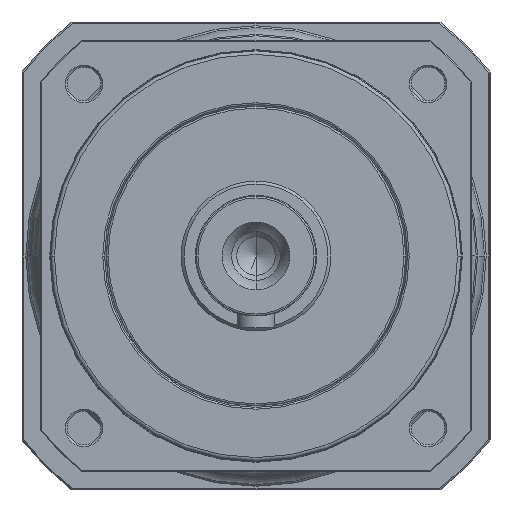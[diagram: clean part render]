
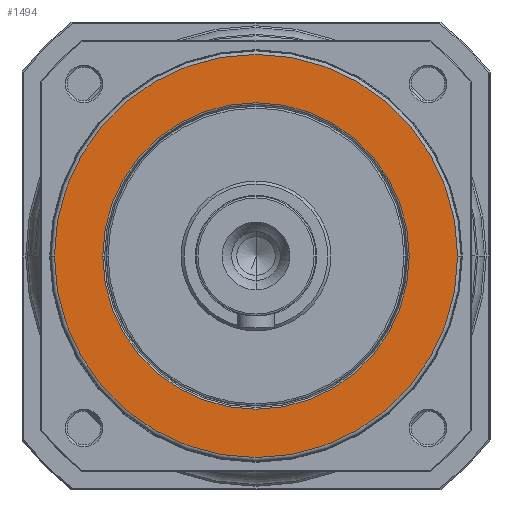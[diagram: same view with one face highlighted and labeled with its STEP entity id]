
A CAD part, left-side view. The second image highlights one B-rep face of the part: STEP entity #1494.
In plain terms, the highlighted planar face has unit normal (-1, 0, 0).
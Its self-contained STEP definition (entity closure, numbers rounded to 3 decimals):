
#1=CARTESIAN_POINT('',(0.,0.,0.));
#2=DIRECTION('',(1.,0.,0.));
#3=DIRECTION('',(0.,1.,0.));
#4=AXIS2_PLACEMENT_3D('',#1,#2,#3);
#6=CARTESIAN_POINT('',(0.,0.,0.));
#7=DIRECTION('',(1.,0.,0.));
#8=DIRECTION('',(0.,-1.,0.));
#9=AXIS2_PLACEMENT_3D('',#6,#7,#8);
#11=CARTESIAN_POINT('',(0.,0.,0.));
#12=DIRECTION('',(-1.,0.,0.));
#13=DIRECTION('',(0.,1.,0.));
#14=AXIS2_PLACEMENT_3D('',#11,#12,#13);
#16=CARTESIAN_POINT('',(0.,0.,0.));
#17=DIRECTION('',(-1.,0.,0.));
#18=DIRECTION('',(0.,-1.,0.));
#19=AXIS2_PLACEMENT_3D('',#16,#17,#18);
#1225=CARTESIAN_POINT('',(0.,40.92,0.));
#1226=CARTESIAN_POINT('',(0.,-40.92,0.));
#1227=VERTEX_POINT('',#1225);
#1228=VERTEX_POINT('',#1226);
#1429=CARTESIAN_POINT('',(0.,53.842,0.));
#1430=CARTESIAN_POINT('',(0.,-53.842,0.));
#1431=VERTEX_POINT('',#1429);
#1432=VERTEX_POINT('',#1430);
#1477=CARTESIAN_POINT('',(0.,0.,0.));
#1478=DIRECTION('',(1.,0.,0.));
#1479=DIRECTION('',(0.,-1.,0.));
#1480=AXIS2_PLACEMENT_3D('',#1477,#1478,#1479);
#1481=PLANE('',#1480);
#1483=ORIENTED_EDGE('',*,*,#1482,.F.);
#1485=ORIENTED_EDGE('',*,*,#1484,.F.);
#1486=EDGE_LOOP('',(#1483,#1485));
#1487=FACE_OUTER_BOUND('',#1486,.F.);
#1489=ORIENTED_EDGE('',*,*,#1488,.F.);
#1491=ORIENTED_EDGE('',*,*,#1490,.F.);
#1492=EDGE_LOOP('',(#1489,#1491));
#1493=FACE_BOUND('',#1492,.F.);
#1494=ADVANCED_FACE('',(#1487,#1493),#1481,.F.);
#5=CIRCLE('',#4,40.92);
#10=CIRCLE('',#9,40.92);
#15=CIRCLE('',#14,53.842);
#20=CIRCLE('',#19,53.842);
#1482=EDGE_CURVE('',#1431,#1432,#15,.T.);
#1484=EDGE_CURVE('',#1432,#1431,#20,.T.);
#1488=EDGE_CURVE('',#1227,#1228,#5,.T.);
#1490=EDGE_CURVE('',#1228,#1227,#10,.T.);
